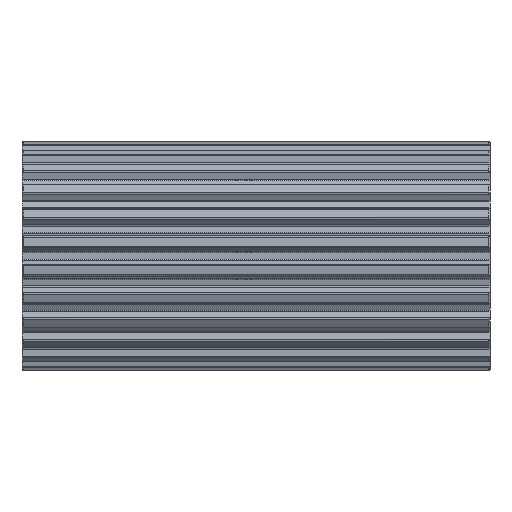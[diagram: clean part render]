
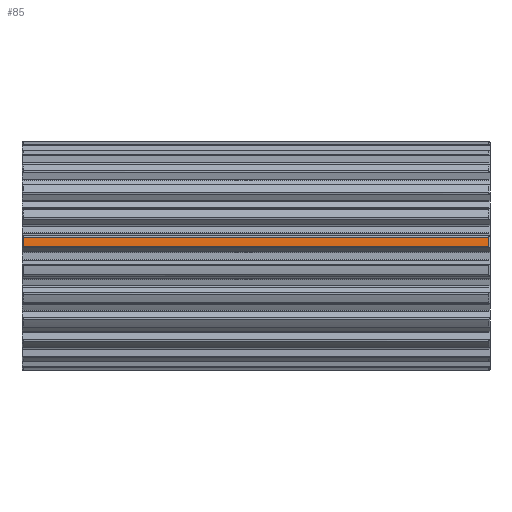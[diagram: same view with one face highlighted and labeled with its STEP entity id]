
A CAD part, front view. The second image highlights one B-rep face of the part: STEP entity #85.
In plain terms, the highlighted cylindrical face has radius 39.29 mm (diameter 78.58 mm), a partial arc.
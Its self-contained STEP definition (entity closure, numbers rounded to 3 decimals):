
#85=ADVANCED_FACE('',(#391),#392,.T.);
#391=FACE_OUTER_BOUND('',#925,.T.);
#392=CYLINDRICAL_SURFACE('',#926,39.29);
#925=EDGE_LOOP('',(#1701,#1702,#1703,#1704));
#926=AXIS2_PLACEMENT_3D('',#1705,#1706,#1707);
#1701=ORIENTED_EDGE('',*,*,#3920,.T.);
#1702=ORIENTED_EDGE('',*,*,#3921,.T.);
#1703=ORIENTED_EDGE('',*,*,#3922,.T.);
#1704=ORIENTED_EDGE('',*,*,#3923,.T.);
#1705=CARTESIAN_POINT('',(80.0,0.0,0.0));
#1706=DIRECTION('',(1.0,0.0,-0.0));
#1707=DIRECTION('',(0.0,0.125,0.992));
#3920=EDGE_CURVE('',#4860,#4869,#4871,.T.);
#3921=EDGE_CURVE('',#4869,#4872,#4873,.T.);
#3922=EDGE_CURVE('',#4872,#4874,#4875,.T.);
#3923=EDGE_CURVE('',#4874,#4860,#4876,.T.);
#4860=VERTEX_POINT('',#6956);
#4869=VERTEX_POINT('',#6990);
#4871=CIRCLE('',#6999,39.29);
#4872=VERTEX_POINT('',#7000);
#4873=LINE('',#7001,#7002);
#4874=VERTEX_POINT('',#7003);
#4875=CIRCLE('',#7004,39.29);
#4876=LINE('',#7005,#7006);
#6956=CARTESIAN_POINT('',(0.5,-38.754,6.47));
#6990=CARTESIAN_POINT('',(0.5,-39.145,3.371));
#6999=AXIS2_PLACEMENT_3D('',#9238,#9239,#9240);
#7000=CARTESIAN_POINT('',(159.5,-39.145,3.371));
#7001=CARTESIAN_POINT('',(80.0,-39.145,3.371));
#7002=VECTOR('',#9241,1.0);
#7003=CARTESIAN_POINT('',(159.5,-38.754,6.47));
#7004=AXIS2_PLACEMENT_3D('',#9242,#9243,#9244);
#7005=CARTESIAN_POINT('',(80.0,-38.754,6.47));
#7006=VECTOR('',#9245,1.0);
#9238=CARTESIAN_POINT('',(0.5,0.0,0.0));
#9239=DIRECTION('',(1.0,0.,0.));
#9240=DIRECTION('',(0.,0.125,0.992));
#9241=DIRECTION('',(1.0,0.0,0.0));
#9242=CARTESIAN_POINT('',(159.5,0.0,0.0));
#9243=DIRECTION('',(-1.0,0.0,0.0));
#9244=DIRECTION('',(0.0,0.125,0.992));
#9245=DIRECTION('',(-1.0,0.0,0.0));
